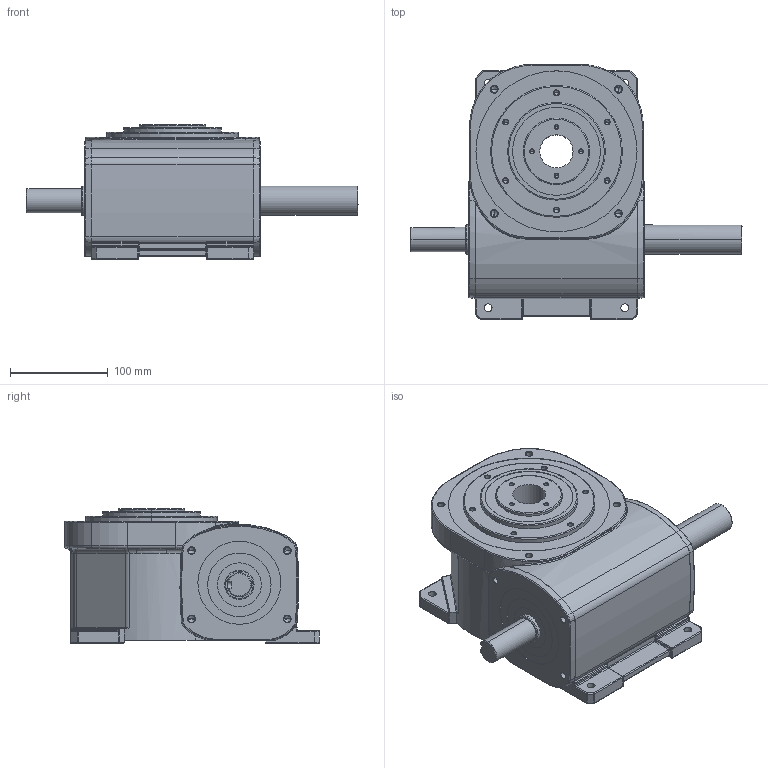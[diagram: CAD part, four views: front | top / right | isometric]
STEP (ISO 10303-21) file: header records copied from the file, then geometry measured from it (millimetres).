
FILE_DESCRIPTION((''),'2;1');
FILE_NAME('9AD','2015-01-15T',('松仔'),(''),'PRO/ENGINEER BY PARAMETRIC TECHNOLOGY CORPORATION, 2013430','PRO/ENGINEER BY PARAMETRIC TECHNOLOGY CORPORATION, 2013430','');
FILE_SCHEMA(('CONFIG_CONTROL_DESIGN'));
Length unit declared in the file: millimetre
Products named in the file (1): 9AD
Bounding box: 340 x 261 x 138 mm (x, y, z)
Volume: 4645749.4 mm3; surface area: 232643.4 mm2
Topology: 1 solids, 23 shells, 686 faces, 1591 edges, 925 vertices
Faces by surface type: cylinder 294, cone 112, plane 110, torus 84, sphere 52, bspline 32, extrusion 2
Entity records: 20965 total; most frequent: CARTESIAN_POINT 5447, DIRECTION 3516, ORIENTED_EDGE 3006, EDGE_CURVE 1547, AXIS2_PLACEMENT_3D 1470, VERTEX_POINT 925, CIRCLE 817, EDGE_LOOP 758
